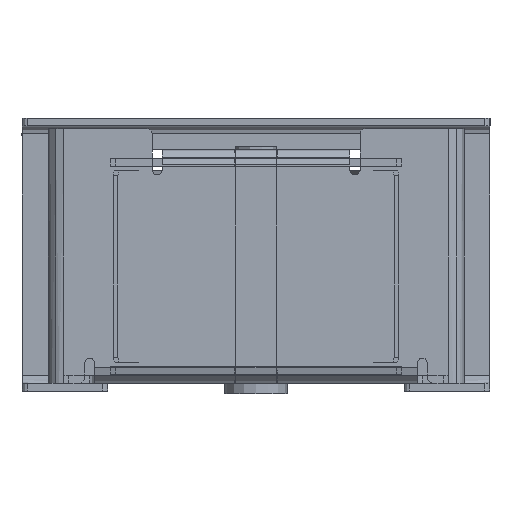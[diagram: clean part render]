
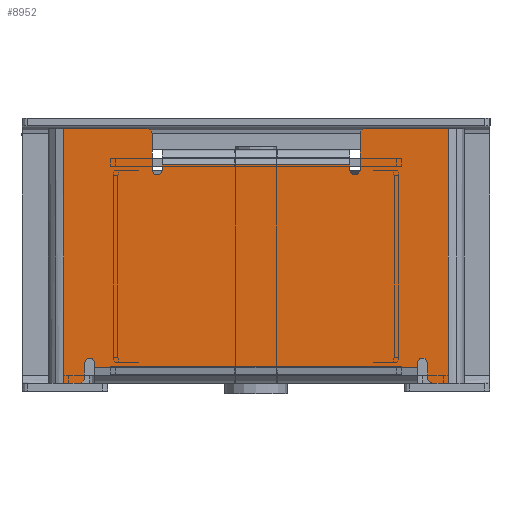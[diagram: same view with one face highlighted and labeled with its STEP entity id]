
A CAD part, front view. The second image highlights one B-rep face of the part: STEP entity #8952.
In plain terms, the highlighted planar face has unit normal (0, -1, 0).
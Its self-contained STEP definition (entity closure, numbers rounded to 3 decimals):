
#95=LINE('',#12919,#1041);
#111=LINE('',#12985,#1057);
#114=LINE('',#12992,#1060);
#119=LINE('',#13005,#1065);
#121=LINE('',#13013,#1067);
#126=LINE('',#13023,#1072);
#129=LINE('',#13032,#1075);
#133=LINE('',#13040,#1079);
#138=LINE('',#13053,#1084);
#141=LINE('',#13059,#1087);
#143=LINE('',#13067,#1089);
#145=LINE('',#13071,#1091);
#146=LINE('',#13073,#1092);
#147=LINE('',#13075,#1093);
#148=LINE('',#13079,#1094);
#149=LINE('',#13080,#1095);
#1041=VECTOR('',#10338,10.);
#1057=VECTOR('',#10404,10.);
#1060=VECTOR('',#10411,10.);
#1065=VECTOR('',#10424,10.);
#1067=VECTOR('',#10434,10.);
#1072=VECTOR('',#10441,10.);
#1075=VECTOR('',#10452,10.);
#1079=VECTOR('',#10460,10.);
#1084=VECTOR('',#10473,10.);
#1087=VECTOR('',#10478,10.);
#1089=VECTOR('',#10488,10.);
#1091=VECTOR('',#10492,10.);
#1092=VECTOR('',#10493,10.);
#1093=VECTOR('',#10496,10.);
#1094=VECTOR('',#10499,10.);
#1095=VECTOR('',#10500,10.);
#2152=FACE_OUTER_BOUND('',#2648,.T.);
#2648=EDGE_LOOP('',(#5678,#5679,#5680,#5681,#5682,#5683,#5684,#5685,#5686,
#5687,#5688,#5689,#5690,#5691,#5692,#5693,#5694,#5695,#5696,#5697,#5698,
#5699,#5700,#5701));
#3151=CIRCLE('',#9483,1.);
#3153=CIRCLE('',#9489,1.);
#3155=CIRCLE('',#9493,1.);
#3157=CIRCLE('',#9498,1.);
#3159=CIRCLE('',#9504,1.);
#3160=CIRCLE('',#9508,1.);
#3162=CIRCLE('',#9512,1.);
#3163=CIRCLE('',#9513,1.);
#3466=VERTEX_POINT('',#12892);
#3467=VERTEX_POINT('',#12898);
#3475=VERTEX_POINT('',#12921);
#3486=VERTEX_POINT('',#12949);
#3490=VERTEX_POINT('',#12960);
#3495=VERTEX_POINT('',#12971);
#3498=VERTEX_POINT('',#12978);
#3499=VERTEX_POINT('',#12980);
#3500=VERTEX_POINT('',#12989);
#3503=VERTEX_POINT('',#12997);
#3505=VERTEX_POINT('',#13003);
#3507=VERTEX_POINT('',#13009);
#3509=VERTEX_POINT('',#13017);
#3511=VERTEX_POINT('',#13021);
#3513=VERTEX_POINT('',#13027);
#3514=VERTEX_POINT('',#13037);
#3517=VERTEX_POINT('',#13045);
#3519=VERTEX_POINT('',#13051);
#3521=VERTEX_POINT('',#13057);
#3522=VERTEX_POINT('',#13061);
#3524=VERTEX_POINT('',#13070);
#3525=VERTEX_POINT('',#13072);
#3526=VERTEX_POINT('',#13076);
#3527=VERTEX_POINT('',#13078);
#4264=EDGE_CURVE('',#3466,#3467,#95,.T.);
#4292=EDGE_CURVE('',#3498,#3499,#3151,.T.);
#4295=EDGE_CURVE('',#3498,#3466,#111,.T.);
#4298=EDGE_CURVE('',#3467,#3500,#114,.T.);
#4302=EDGE_CURVE('',#3503,#3500,#3153,.T.);
#4305=EDGE_CURVE('',#3503,#3505,#119,.T.);
#4308=EDGE_CURVE('',#3507,#3505,#3155,.T.);
#4309=EDGE_CURVE('',#3475,#3507,#121,.T.);
#4314=EDGE_CURVE('',#3509,#3511,#126,.T.);
#4317=EDGE_CURVE('',#3513,#3511,#3157,.T.);
#4319=EDGE_CURVE('',#3513,#3490,#129,.T.);
#4323=EDGE_CURVE('',#3495,#3514,#133,.T.);
#4327=EDGE_CURVE('',#3517,#3514,#3159,.T.);
#4330=EDGE_CURVE('',#3517,#3519,#138,.T.);
#4333=EDGE_CURVE('',#3521,#3486,#141,.T.);
#4334=EDGE_CURVE('',#3522,#3521,#3160,.T.);
#4337=EDGE_CURVE('',#3522,#3499,#143,.T.);
#4339=EDGE_CURVE('',#3475,#3524,#145,.T.);
#4340=EDGE_CURVE('',#3525,#3524,#146,.T.);
#4341=EDGE_CURVE('',#3509,#3525,#3162,.T.);
#4342=EDGE_CURVE('',#3490,#3495,#147,.T.);
#4343=EDGE_CURVE('',#3526,#3519,#3163,.T.);
#4344=EDGE_CURVE('',#3527,#3526,#148,.T.);
#4345=EDGE_CURVE('',#3527,#3486,#149,.T.);
#5678=ORIENTED_EDGE('',*,*,#4264,.T.);
#5679=ORIENTED_EDGE('',*,*,#4298,.T.);
#5680=ORIENTED_EDGE('',*,*,#4302,.F.);
#5681=ORIENTED_EDGE('',*,*,#4305,.T.);
#5682=ORIENTED_EDGE('',*,*,#4308,.F.);
#5683=ORIENTED_EDGE('',*,*,#4309,.F.);
#5684=ORIENTED_EDGE('',*,*,#4339,.T.);
#5685=ORIENTED_EDGE('',*,*,#4340,.F.);
#5686=ORIENTED_EDGE('',*,*,#4341,.F.);
#5687=ORIENTED_EDGE('',*,*,#4314,.T.);
#5688=ORIENTED_EDGE('',*,*,#4317,.F.);
#5689=ORIENTED_EDGE('',*,*,#4319,.T.);
#5690=ORIENTED_EDGE('',*,*,#4342,.T.);
#5691=ORIENTED_EDGE('',*,*,#4323,.T.);
#5692=ORIENTED_EDGE('',*,*,#4327,.F.);
#5693=ORIENTED_EDGE('',*,*,#4330,.T.);
#5694=ORIENTED_EDGE('',*,*,#4343,.F.);
#5695=ORIENTED_EDGE('',*,*,#4344,.F.);
#5696=ORIENTED_EDGE('',*,*,#4345,.T.);
#5697=ORIENTED_EDGE('',*,*,#4333,.F.);
#5698=ORIENTED_EDGE('',*,*,#4334,.F.);
#5699=ORIENTED_EDGE('',*,*,#4337,.T.);
#5700=ORIENTED_EDGE('',*,*,#4292,.F.);
#5701=ORIENTED_EDGE('',*,*,#4295,.T.);
#8095=PLANE('',#9511);
#8952=ADVANCED_FACE('',(#2152),#8095,.T.);
#9483=AXIS2_PLACEMENT_3D('',#12981,#10398,#10399);
#9489=AXIS2_PLACEMENT_3D('',#12999,#10418,#10419);
#9493=AXIS2_PLACEMENT_3D('',#13011,#10430,#10431);
#9498=AXIS2_PLACEMENT_3D('',#13029,#10447,#10448);
#9504=AXIS2_PLACEMENT_3D('',#13047,#10467,#10468);
#9508=AXIS2_PLACEMENT_3D('',#13062,#10481,#10482);
#9511=AXIS2_PLACEMENT_3D('',#13069,#10490,#10491);
#9512=AXIS2_PLACEMENT_3D('',#13074,#10494,#10495);
#9513=AXIS2_PLACEMENT_3D('',#13077,#10497,#10498);
#10338=DIRECTION('',(-1.,0.,0.));
#10398=DIRECTION('center_axis',(0.,-1.,0.));
#10399=DIRECTION('ref_axis',(-0.707,0.,-0.707));
#10404=DIRECTION('',(0.,0.,1.));
#10411=DIRECTION('',(0.,0.,-1.));
#10418=DIRECTION('center_axis',(0.,-1.,0.));
#10419=DIRECTION('ref_axis',(-0.707,0.,-0.707));
#10424=DIRECTION('',(0.,0.,1.));
#10430=DIRECTION('center_axis',(0.,1.,0.));
#10431=DIRECTION('ref_axis',(0.707,0.,0.707));
#10434=DIRECTION('',(1.,0.,0.));
#10441=DIRECTION('',(0.,0.,1.));
#10447=DIRECTION('center_axis',(0.,-1.,0.));
#10448=DIRECTION('ref_axis',(0.707,0.,0.707));
#10452=DIRECTION('',(0.,0.,-1.));
#10460=DIRECTION('',(0.,0.,1.));
#10467=DIRECTION('center_axis',(0.,-1.,0.));
#10468=DIRECTION('ref_axis',(0.707,0.,0.707));
#10473=DIRECTION('',(0.,0.,-1.));
#10478=DIRECTION('',(1.,0.,0.));
#10481=DIRECTION('center_axis',(0.,1.,0.));
#10482=DIRECTION('ref_axis',(-0.707,0.,0.707));
#10488=DIRECTION('',(0.,0.,-1.));
#10490=DIRECTION('center_axis',(0.,-1.,0.));
#10491=DIRECTION('ref_axis',(0.,0.,
1.));
#10492=DIRECTION('',(0.,0.,-1.));
#10493=DIRECTION('',(-1.,0.,0.));
#10494=DIRECTION('center_axis',(0.,1.,0.));
#10495=DIRECTION('ref_axis',(0.707,0.,-0.707));
#10496=DIRECTION('',(1.,0.,0.));
#10497=DIRECTION('center_axis',(0.,1.,0.));
#10498=DIRECTION('ref_axis',(-0.707,0.,-0.707));
#10499=DIRECTION('',(-1.,0.,0.));
#10500=DIRECTION('',(0.,0.,1.));
#12892=CARTESIAN_POINT('',(18.,-6311.5,17.5));
#12898=CARTESIAN_POINT('',(-18.,-6311.5,17.5));
#12919=CARTESIAN_POINT('',(9.,-6311.5,17.5));
#12921=CARTESIAN_POINT('',(-37.,-6311.5,24.5));
#12949=CARTESIAN_POINT('',(37.,-6311.5,24.5));
#12960=CARTESIAN_POINT('',(-31.,-6311.5,-21.5));
#12971=CARTESIAN_POINT('',(31.,-6311.5,-21.5));
#12978=CARTESIAN_POINT('',(18.,-6311.5,16.5));
#12980=CARTESIAN_POINT('',(20.,-6311.5,16.5));
#12981=CARTESIAN_POINT('Origin',(19.,-6311.5,16.5));
#12985=CARTESIAN_POINT('',(18.,-6311.5,10.25));
#12989=CARTESIAN_POINT('',(-18.,-6311.5,16.5));
#12992=CARTESIAN_POINT('',(-18.,-6311.5,7.75));
#12997=CARTESIAN_POINT('',(-20.,-6311.5,16.5));
#12999=CARTESIAN_POINT('Origin',(-19.,-6311.5,16.5));
#13003=CARTESIAN_POINT('',(-20.,-6311.5,23.5));
#13005=CARTESIAN_POINT('',(-20.,-6311.5,12.25));
#13009=CARTESIAN_POINT('',(-21.,-6311.5,24.5));
#13011=CARTESIAN_POINT('Origin',(-21.,-6311.5,23.5));
#13013=CARTESIAN_POINT('',(40.,-6311.5,24.5));
#13017=CARTESIAN_POINT('',(-33.,-6311.5,-23.5));
#13021=CARTESIAN_POINT('',(-33.,-6311.5,-20.5));
#13023=CARTESIAN_POINT('',(-33.,-6311.5,-9.75));
#13027=CARTESIAN_POINT('',(-31.,-6311.5,-20.5));
#13029=CARTESIAN_POINT('Origin',(-32.,-6311.5,-20.5));
#13032=CARTESIAN_POINT('',(-31.,-6311.5,-12.25));
#13037=CARTESIAN_POINT('',(31.,-6311.5,-20.5));
#13040=CARTESIAN_POINT('',(31.,-6311.5,-9.75));
#13045=CARTESIAN_POINT('',(33.,-6311.5,-20.5));
#13047=CARTESIAN_POINT('Origin',(32.,-6311.5,-20.5));
#13051=CARTESIAN_POINT('',(33.,-6311.5,-23.5));
#13053=CARTESIAN_POINT('',(33.,-6311.5,-12.25));
#13057=CARTESIAN_POINT('',(21.,-6311.5,24.5));
#13059=CARTESIAN_POINT('',(40.,-6311.5,24.5));
#13061=CARTESIAN_POINT('',(20.,-6311.5,23.5));
#13062=CARTESIAN_POINT('Origin',(21.,-6311.5,23.5));
#13067=CARTESIAN_POINT('',(20.,-6311.5,7.75));
#13069=CARTESIAN_POINT('Origin',(0.,-6311.5,
0.));
#13070=CARTESIAN_POINT('',(-37.,-6311.5,-24.5));
#13071=CARTESIAN_POINT('',(-37.,-6311.5,12.25));
#13072=CARTESIAN_POINT('',(-34.,-6311.5,-24.5));
#13073=CARTESIAN_POINT('',(-40.,-6311.5,-24.5));
#13074=CARTESIAN_POINT('Origin',(-34.,-6311.5,-23.5));
#13075=CARTESIAN_POINT('',(-15.5,-6311.5,-21.5));
#13076=CARTESIAN_POINT('',(34.,-6311.5,-24.5));
#13077=CARTESIAN_POINT('Origin',(34.,-6311.5,-23.5));
#13078=CARTESIAN_POINT('',(37.,-6311.5,-24.5));
#13079=CARTESIAN_POINT('',(-40.,-6311.5,-24.5));
#13080=CARTESIAN_POINT('',(37.,-6311.5,-12.25));
